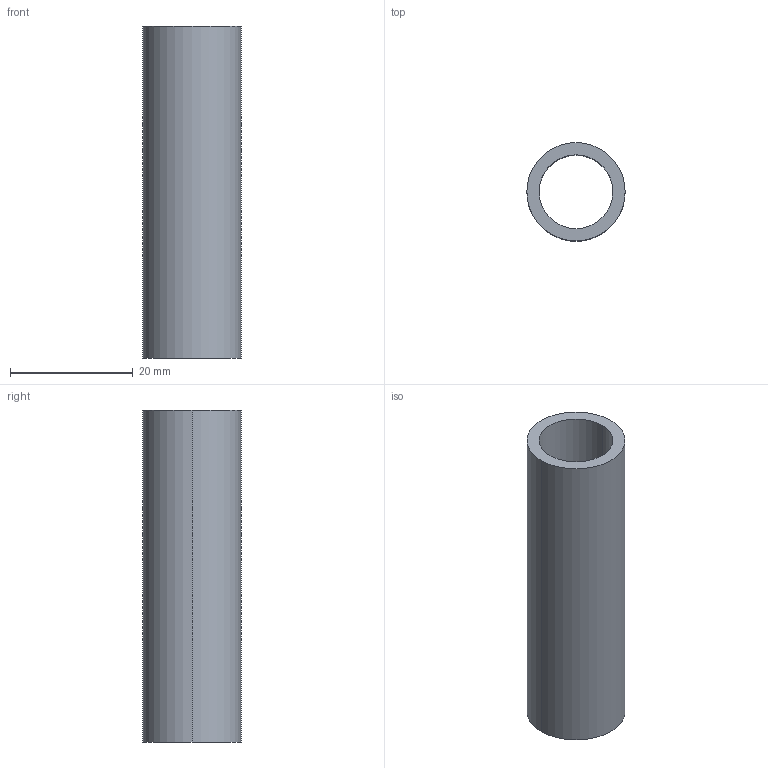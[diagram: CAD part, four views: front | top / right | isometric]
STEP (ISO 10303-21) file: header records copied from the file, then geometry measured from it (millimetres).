
FILE_DESCRIPTION (( 'STEP AP214' ), '1' );
FILE_NAME ('Abstandshalter3.STEP', '2016-12-28T08:49:38', ( '' ), ( '' ), 'SwSTEP 2.0', 'SolidWorks 2016', '' );
FILE_SCHEMA (( 'AUTOMOTIVE_DESIGN' ));
Length unit declared in the file: millimetre
Products named in the file (1): Abstandshalter3
Bounding box: 16 x 16 x 54 mm (x, y, z)
Volume: 4750.1 mm3; surface area: 4926 mm2
Topology: 1 solids, 1 shells, 6 faces, 12 edges, 8 vertices
Faces by surface type: cylinder 4, plane 2
Entity records: 202 total; most frequent: DIRECTION 34, CARTESIAN_POINT 27, ORIENTED_EDGE 24, AXIS2_PLACEMENT_3D 15, EDGE_CURVE 12, EDGE_LOOP 8, VERTEX_POINT 8, CIRCLE 8
